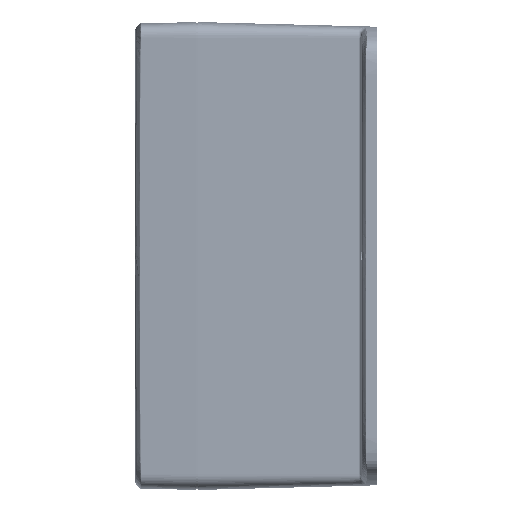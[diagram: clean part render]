
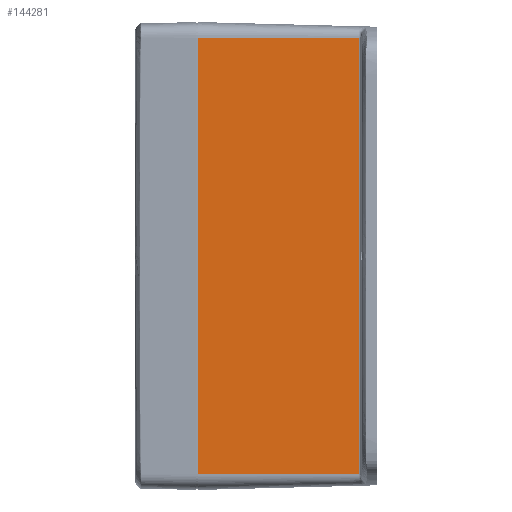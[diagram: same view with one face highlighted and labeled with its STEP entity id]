
A CAD part, left-side view. The second image highlights one B-rep face of the part: STEP entity #144281.
In plain terms, the highlighted planar face has unit normal (-1, -0.026, 0).
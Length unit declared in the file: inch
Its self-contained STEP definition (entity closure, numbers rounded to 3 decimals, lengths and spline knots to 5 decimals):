
#4309 = CARTESIAN_POINT ( 'NONE',  ( -5.5, 2.965, -3.60995 ) ) ;
#5330 = EDGE_CURVE ( 'NONE', #90422, #56551, #235411, .T. ) ;
#9442 = ORIENTED_EDGE ( 'NONE', *, *, #5330, .F. ) ;
#11039 = VERTEX_POINT ( 'NONE', #114704 ) ;
#22125 = DIRECTION ( 'NONE',  ( 0., 0., 1. ) ) ;
#24631 = ORIENTED_EDGE ( 'NONE', *, *, #181170, .T. ) ;
#34083 = CARTESIAN_POINT ( 'NONE',  ( -5.5, 2.965, 3.60995 ) ) ;
#34395 = VECTOR ( 'NONE', #22125, 39.37008 ) ;
#35136 = PLANE ( 'NONE',  #53176 ) ;
#41951 = DIRECTION ( 'NONE',  ( 0.026, -1., 0. ) ) ;
#45712 = VERTEX_POINT ( 'NONE', #215598 ) ;
#51127 = VECTOR ( 'NONE', #51376, 39.37008 ) ;
#51376 = DIRECTION ( 'NONE',  ( 0., 0., 1. ) ) ;
#53176 = AXIS2_PLACEMENT_3D ( 'NONE', #72648, #220352, #54487 ) ;
#53477 = CARTESIAN_POINT ( 'NONE',  ( -5.5, 2.965, 3.60995 ) ) ;
#54487 = DIRECTION ( 'NONE',  ( 0.026, -1., 0. ) ) ;
#56551 = VERTEX_POINT ( 'NONE', #34083 ) ;
#63239 = LINE ( 'NONE', #206207, #34395 ) ;
#72648 = CARTESIAN_POINT ( 'NONE',  ( -5.5, 2.965, -3.60995 ) ) ;
#84113 = CARTESIAN_POINT ( 'NONE',  ( -5.5, 2.965, -3.60995 ) ) ;
#90422 = VERTEX_POINT ( 'NONE', #4309 ) ;
#91698 = EDGE_LOOP ( 'NONE', ( #24631, #197931, #177691, #9442 ) ) ;
#97664 = CARTESIAN_POINT ( 'NONE',  ( -5.5, 2.965, -3.60995 ) ) ;
#114704 = CARTESIAN_POINT ( 'NONE',  ( -5.43031, 0.30368, 3.60995 ) ) ;
#129550 = FACE_OUTER_BOUND ( 'NONE', #91698, .T. ) ;
#144281 = ADVANCED_FACE ( 'Face2', ( #129550 ), #35136, .T. ) ;
#177691 = ORIENTED_EDGE ( 'NONE', *, *, #196557, .F. ) ;
#181170 = EDGE_CURVE ( 'NONE', #90422, #45712, #186109, .T. ) ;
#186109 = LINE ( 'NONE', #97664, #192346 ) ;
#192346 = VECTOR ( 'NONE', #41951, 39.37008 ) ;
#196557 = EDGE_CURVE ( 'NONE', #56551, #11039, #238682, .T. ) ;
#197931 = ORIENTED_EDGE ( 'NONE', *, *, #206471, .T. ) ;
#199992 = DIRECTION ( 'NONE',  ( 0.026, -1., 0. ) ) ;
#201304 = VECTOR ( 'NONE', #199992, 39.37008 ) ;
#206207 = CARTESIAN_POINT ( 'NONE',  ( -5.43031, 0.30369, -3.60995 ) ) ;
#206471 = EDGE_CURVE ( 'NONE', #45712, #11039, #63239, .T. ) ;
#215598 = CARTESIAN_POINT ( 'NONE',  ( -5.43031, 0.30368, -3.60995 ) ) ;
#220352 = DIRECTION ( 'NONE',  ( -1., -0.026, 0. ) ) ;
#235411 = LINE ( 'NONE', #84113, #51127 ) ;
#238682 = LINE ( 'NONE', #53477, #201304 ) ;
